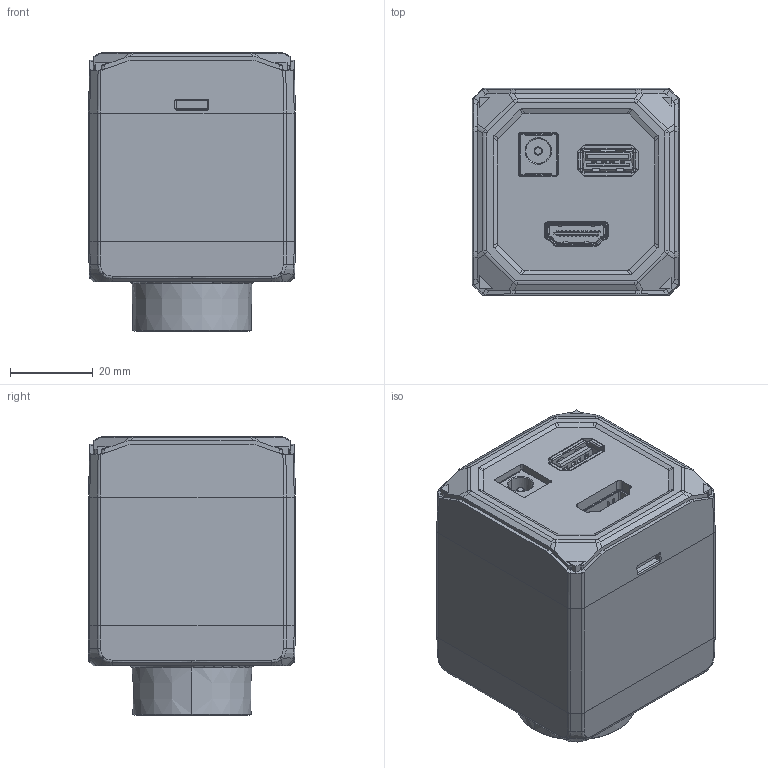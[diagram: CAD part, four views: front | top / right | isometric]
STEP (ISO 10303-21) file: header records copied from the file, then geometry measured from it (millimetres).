
FILE_DESCRIPTION((''),'2;1');
FILE_NAME('DE-30-002081_ASM','2025-06-25T13:46:30',('gengdawei'),(''),'CREO PARAMETRIC BY PTC INC, 2020044','CREO PARAMETRIC BY PTC INC, 2020044','');
FILE_SCHEMA(('CONFIG_CONTROL_DESIGN'));
Products named in the file (10): DE-13-001640; D-01-35-26-0007; DE-14-046068; DE-13-001646; 101300306; 101301188; 101301790; MV23999REV10_ASM; SC-HSCM3X40-SCM435-DAC-GB70_1; DE-30-002081_ASM
Assembly tree (12 placements, depth 3):
  DE-30-002081_ASM
    DE-13-001640
    D-01-35-26-0007
    DE-14-046068
    DE-13-001646
    MV23999REV10_ASM
      101300306
      101301188
      101301790
    SC-HSCM3X40-SCM435-DAC-GB70_1  x4
Bounding box: 50.03 x 50.01 x 67.35 mm (x, y, z)
Volume: 140274.8 mm3; surface area: 37637 mm2
Topology: 15 solids, 27 shells, 3929 faces, 11780 edges, 7741 vertices
Faces by surface type: plane 2705, cylinder 979, cone 121, bspline 70, torus 30, extrusion 17, sphere 7
Entity records: 134794 total; most frequent: CARTESIAN_POINT 28761, ORIENTED_EDGE 23292, DIRECTION 20749, EDGE_CURVE 11646, VECTOR 9225, LINE 9208, VERTEX_POINT 7663, AXIS2_PLACEMENT_3D 5762
